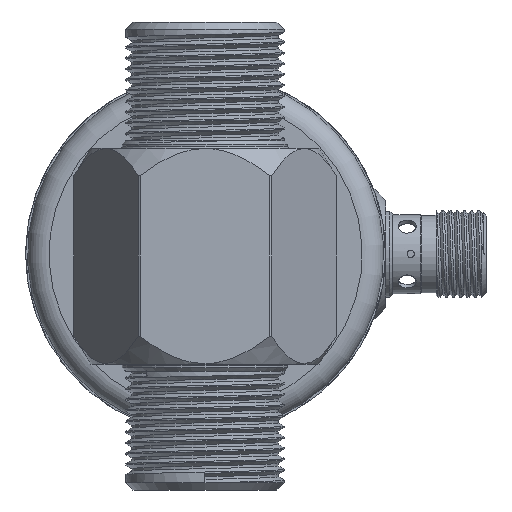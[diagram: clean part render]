
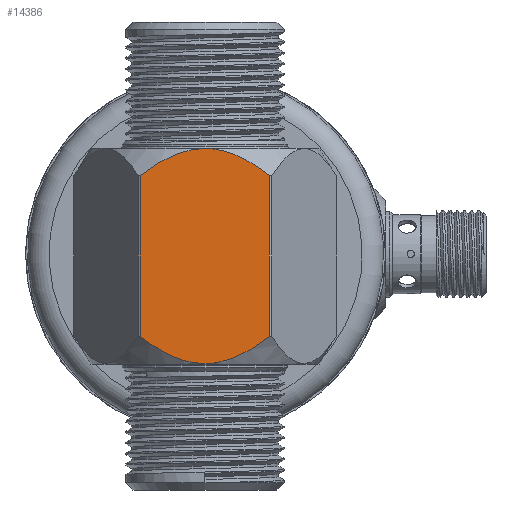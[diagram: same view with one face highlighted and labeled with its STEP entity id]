
A CAD part, front view. The second image highlights one B-rep face of the part: STEP entity #14386.
In plain terms, the highlighted planar face has unit normal (0, -1, 0) as drawn and (1, 0, 0) by its records, which use the part's own axes.
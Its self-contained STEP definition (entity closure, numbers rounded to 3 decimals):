
#107 = CARTESIAN_POINT ( 'NONE',  ( 15.9, 4.032, 14.155 ) ) ;
#142 = EDGE_CURVE ( 'NONE', #5909, #17407, #11431, .T. ) ;
#521 = CARTESIAN_POINT ( 'NONE',  ( 15.9, 3.256, 14.439 ) ) ;
#647 = CARTESIAN_POINT ( 'NONE',  ( 15.9, 7.647, 12.165 ) ) ;
#859 = AXIS2_PLACEMENT_3D ( 'NONE', #15717, #13496, #24198 ) ;
#2234 = CARTESIAN_POINT ( 'NONE',  ( 15.9, -8.958, 11.176 ) ) ;
#2350 = EDGE_CURVE ( 'NONE', #22654, #5909, #5061, .T. ) ;
#2486 = CARTESIAN_POINT ( 'NONE',  ( 15.9, 0.818, 14.936 ) ) ;
#2795 = CARTESIAN_POINT ( 'NONE',  ( 15.9, -8.958, -11.176 ) ) ;
#2881 = VECTOR ( 'NONE', #23158, 1000. ) ;
#3201 = CARTESIAN_POINT ( 'NONE',  ( 15.9, -6.243, -13.05 ) ) ;
#3202 = ORIENTED_EDGE ( 'NONE', *, *, #17341, .F. ) ;
#3712 = CARTESIAN_POINT ( 'NONE',  ( 15.9, -8.958, -11.176 ) ) ;
#4562 = CARTESIAN_POINT ( 'NONE',  ( 15.9, -8.316, 11.68 ) ) ;
#4879 = CARTESIAN_POINT ( 'NONE',  ( 15.9, 2.063, -14.73 ) ) ;
#5061 = LINE ( 'NONE', #7008, #17847 ) ;
#5167 = PLANE ( 'NONE',  #859 ) ;
#5278 = CARTESIAN_POINT ( 'NONE',  ( 15.9, -0.818, -14.936 ) ) ;
#5909 = VERTEX_POINT ( 'NONE', #2234 ) ;
#6777 = CARTESIAN_POINT ( 'NONE',  ( 15.9, -1.651, 14.807 ) ) ;
#6906 = CARTESIAN_POINT ( 'NONE',  ( 15.9, -3.268, 14.435 ) ) ;
#7008 = CARTESIAN_POINT ( 'NONE',  ( 15.9, -8.958, -33. ) ) ;
#7256 = CARTESIAN_POINT ( 'NONE',  ( 15.9, 8.958, -11.176 ) ) ;
#8566 = CARTESIAN_POINT ( 'NONE',  ( 15.9, 6.243, 13.05 ) ) ;
#8851 = CARTESIAN_POINT ( 'NONE',  ( 15.9, -6.618, 12.824 ) ) ;
#8981 = CARTESIAN_POINT ( 'NONE',  ( 15.9, 5.154, 13.639 ) ) ;
#9019 = EDGE_LOOP ( 'NONE', ( #25601, #24986, #3202, #17750 ) ) ;
#9104 = CARTESIAN_POINT ( 'NONE',  ( 15.9, 8.314, 11.682 ) ) ;
#9425 = CARTESIAN_POINT ( 'NONE',  ( 15.9, 8.958, -11.176 ) ) ;
#9561 = CARTESIAN_POINT ( 'NONE',  ( 15.9, 8.316, -11.68 ) ) ;
#11063 = CARTESIAN_POINT ( 'NONE',  ( 15.9, -5.544, 13.439 ) ) ;
#11197 = CARTESIAN_POINT ( 'NONE',  ( 15.9, 6.6, 12.836 ) ) ;
#11431 = B_SPLINE_CURVE_WITH_KNOTS ( 'NONE', 3,
 ( #14966, #4562, #13160, #8851, #17451, #11063, #25683, #13024, #6906, #25951, #6777, #21503, #21635, #2486, #23861, #521, #107, #8981, #21771, #8566, #11197, #647, #9104, #12884 ),
 .UNSPECIFIED., .F., .F.,
 ( 4, 2, 2, 2, 2, 2, 2, 2, 2, 2, 2, 4 ),
 ( 0.025, 0.028, 0.029, 0.03, 0.033, 0.034, 0.035, 0.038, 0.04, 0.041, 0.042, 0.045 ),
 .UNSPECIFIED. ) ;
#11515 = CARTESIAN_POINT ( 'NONE',  ( 15.9, 5.172, -13.63 ) ) ;
#11645 = CARTESIAN_POINT ( 'NONE',  ( 15.9, 1.651, -14.807 ) ) ;
#12884 = CARTESIAN_POINT ( 'NONE',  ( 15.9, 8.958, 11.176 ) ) ;
#13024 = CARTESIAN_POINT ( 'NONE',  ( 15.9, -4.042, 14.152 ) ) ;
#13160 = CARTESIAN_POINT ( 'NONE',  ( 15.9, -7.654, 12.159 ) ) ;
#13338 = CARTESIAN_POINT ( 'NONE',  ( 15.9, -3.256, -14.439 ) ) ;
#13471 = CARTESIAN_POINT ( 'NONE',  ( 15.9, -5.154, -13.639 ) ) ;
#13496 = DIRECTION ( 'NONE',  ( -1., 0., 0. ) ) ;
#14386 = ADVANCED_FACE ( 'NONE', ( #26416 ), #5167, .F. ) ;
#14966 = CARTESIAN_POINT ( 'NONE',  ( 15.9, -8.958, 11.176 ) ) ;
#15480 = DIRECTION ( 'NONE',  ( 0., 0., 1. ) ) ;
#15553 = CARTESIAN_POINT ( 'NONE',  ( 15.9, -4.032, -14.155 ) ) ;
#15717 = CARTESIAN_POINT ( 'NONE',  ( 15.9, -9.18, 15. ) ) ;
#15824 = CARTESIAN_POINT ( 'NONE',  ( 15.9, -7.647, -12.165 ) ) ;
#16850 = VERTEX_POINT ( 'NONE', #7256 ) ;
#17341 = EDGE_CURVE ( 'NONE', #17407, #16850, #27188, .T. ) ;
#17407 = VERTEX_POINT ( 'NONE', #23859 ) ;
#17451 = CARTESIAN_POINT ( 'NONE',  ( 15.9, -6.266, 13.037 ) ) ;
#17633 = CARTESIAN_POINT ( 'NONE',  ( 15.9, -1.634, -14.834 ) ) ;
#17750 = ORIENTED_EDGE ( 'NONE', *, *, #142, .F. ) ;
#17768 = CARTESIAN_POINT ( 'NONE',  ( 15.9, 7.654, -12.159 ) ) ;
#17847 = VECTOR ( 'NONE', #15480, 1000. ) ;
#17904 = CARTESIAN_POINT ( 'NONE',  ( 15.9, -6.6, -12.836 ) ) ;
#18039 = CARTESIAN_POINT ( 'NONE',  ( 15.9, 5.544, -13.439 ) ) ;
#19732 = CARTESIAN_POINT ( 'NONE',  ( 15.9, -5.521, -13.451 ) ) ;
#19861 = CARTESIAN_POINT ( 'NONE',  ( 15.9, 0.414, -14.935 ) ) ;
#19990 = CARTESIAN_POINT ( 'NONE',  ( 15.9, 0.825, -14.91 ) ) ;
#21503 = CARTESIAN_POINT ( 'NONE',  ( 15.9, -0.825, 14.91 ) ) ;
#21635 = CARTESIAN_POINT ( 'NONE',  ( 15.9, -0.414, 14.935 ) ) ;
#21771 = CARTESIAN_POINT ( 'NONE',  ( 15.9, 5.521, 13.451 ) ) ;
#22654 = VERTEX_POINT ( 'NONE', #3712 ) ;
#22687 = B_SPLINE_CURVE_WITH_KNOTS ( 'NONE', 3,
 ( #9425, #9561, #17768, #26006, #26259, #18039, #11515, #23906, #26528, #4879, #11645, #19990, #19861, #5278, #17633, #13338, #15553, #13471, #19732, #3201, #17904, #15824, #26394, #2795 ),
 .UNSPECIFIED., .F., .F.,
 ( 4, 2, 2, 2, 2, 2, 2, 2, 2, 2, 2, 4 ),
 ( 0.025, 0.028, 0.029, 0.03, 0.033, 0.034, 0.035, 0.038, 0.04, 0.041, 0.042, 0.045 ),
 .UNSPECIFIED. ) ;
#23158 = DIRECTION ( 'NONE',  ( 0., 0., -1. ) ) ;
#23859 = CARTESIAN_POINT ( 'NONE',  ( 15.9, 8.958, 11.176 ) ) ;
#23861 = CARTESIAN_POINT ( 'NONE',  ( 15.9, 1.634, 14.834 ) ) ;
#23906 = CARTESIAN_POINT ( 'NONE',  ( 15.9, 4.042, -14.152 ) ) ;
#24198 = DIRECTION ( 'NONE',  ( 0., -1., 0. ) ) ;
#24986 = ORIENTED_EDGE ( 'NONE', *, *, #27160, .F. ) ;
#25239 = CARTESIAN_POINT ( 'NONE',  ( 15.9, 8.958, -33. ) ) ;
#25601 = ORIENTED_EDGE ( 'NONE', *, *, #2350, .F. ) ;
#25683 = CARTESIAN_POINT ( 'NONE',  ( 15.9, -5.172, 13.63 ) ) ;
#25951 = CARTESIAN_POINT ( 'NONE',  ( 15.9, -2.063, 14.73 ) ) ;
#26006 = CARTESIAN_POINT ( 'NONE',  ( 15.9, 6.618, -12.824 ) ) ;
#26259 = CARTESIAN_POINT ( 'NONE',  ( 15.9, 6.266, -13.037 ) ) ;
#26394 = CARTESIAN_POINT ( 'NONE',  ( 15.9, -8.314, -11.682 ) ) ;
#26416 = FACE_OUTER_BOUND ( 'NONE', #9019, .T. ) ;
#26528 = CARTESIAN_POINT ( 'NONE',  ( 15.9, 3.268, -14.435 ) ) ;
#27160 = EDGE_CURVE ( 'NONE', #16850, #22654, #22687, .T. ) ;
#27188 = LINE ( 'NONE', #25239, #2881 ) ;
